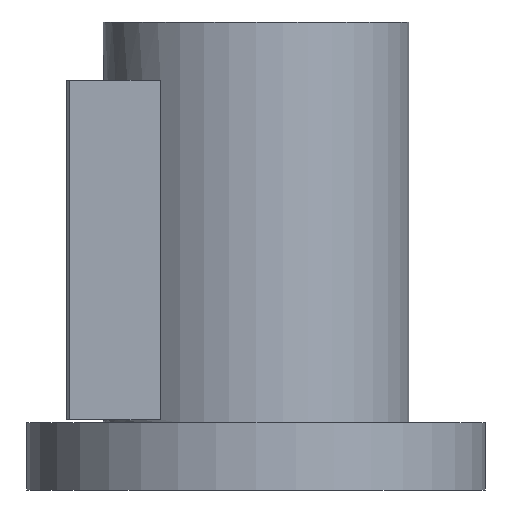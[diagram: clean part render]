
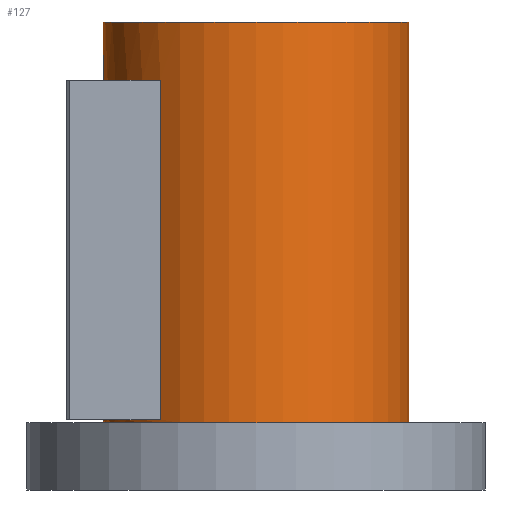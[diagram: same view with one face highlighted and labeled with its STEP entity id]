
A CAD part, front view. The second image highlights one B-rep face of the part: STEP entity #127.
In plain terms, the highlighted cylindrical face has radius 50 mm (diameter 100 mm), a full revolution.
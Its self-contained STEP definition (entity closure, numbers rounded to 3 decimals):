
#127=ADVANCED_FACE('',(#200,#201,#202),#155,.T.);
#155=CYLINDRICAL_SURFACE('',#508,50.);
#168=LINE('',#698,#184);
#169=LINE('',#702,#185);
#184=VECTOR('',#568,1.);
#185=VECTOR('',#571,1.);
#200=FACE_BOUND('',#245,.T.);
#201=FACE_BOUND('',#246,.T.);
#202=FACE_BOUND('',#247,.T.);
#245=EDGE_LOOP('',(#305));
#246=EDGE_LOOP('',(#306));
#247=EDGE_LOOP('',(#307,#308,#309,#310));
#305=ORIENTED_EDGE('',*,*,#431,.F.);
#306=ORIENTED_EDGE('',*,*,#432,.T.);
#307=ORIENTED_EDGE('',*,*,#433,.F.);
#308=ORIENTED_EDGE('',*,*,#434,.F.);
#309=ORIENTED_EDGE('',*,*,#435,.T.);
#310=ORIENTED_EDGE('',*,*,#436,.F.);
#393=VERTEX_POINT('',#692);
#394=VERTEX_POINT('',#694);
#395=VERTEX_POINT('',#696);
#396=VERTEX_POINT('',#697);
#397=VERTEX_POINT('',#699);
#398=VERTEX_POINT('',#701);
#431=EDGE_CURVE('',#393,#393,#475,.T.);
#432=EDGE_CURVE('',#394,#394,#476,.T.);
#433=EDGE_CURVE('',#395,#396,#477,.T.);
#434=EDGE_CURVE('',#397,#395,#168,.T.);
#435=EDGE_CURVE('',#397,#398,#478,.T.);
#436=EDGE_CURVE('',#396,#398,#169,.T.);
#475=CIRCLE('',#504,50.);
#476=CIRCLE('',#505,50.);
#477=CIRCLE('',#506,50.);
#478=CIRCLE('',#507,50.);
#504=AXIS2_PLACEMENT_3D('',#691,#562,#563);
#505=AXIS2_PLACEMENT_3D('',#693,#564,#565);
#506=AXIS2_PLACEMENT_3D('',#695,#566,#567);
#507=AXIS2_PLACEMENT_3D('',#700,#569,#570);
#508=AXIS2_PLACEMENT_3D('',#703,#572,#573);
#562=DIRECTION('',(0.,0.,1.));
#563=DIRECTION('',(1.,0.,0.));
#564=DIRECTION('',(0.,0.,1.));
#565=DIRECTION('',(1.,0.,0.));
#566=DIRECTION('',(0.,0.,-1.));
#567=DIRECTION('',(-1.,0.,0.));
#568=DIRECTION('',(0.,0.,1.));
#569=DIRECTION('',(0.,0.,-1.));
#570=DIRECTION('',(-1.,0.,0.));
#571=DIRECTION('',(0.,0.,-1.));
#572=DIRECTION('',(0.,0.,-1.));
#573=DIRECTION('',(-1.,0.,0.));
#691=CARTESIAN_POINT('',(0.,0.,153.));
#692=CARTESIAN_POINT('',(50.,0.,153.));
#693=CARTESIAN_POINT('',(0.,0.,22.));
#694=CARTESIAN_POINT('',(50.,0.,22.));
#695=CARTESIAN_POINT('',(0.,0.,134.));
#696=CARTESIAN_POINT('',(-31.289,-39.,134.));
#697=CARTESIAN_POINT('',(-31.289,39.,134.));
#698=CARTESIAN_POINT('',(-31.289,-39.,153.));
#699=CARTESIAN_POINT('',(-31.289,-39.,23.));
#700=CARTESIAN_POINT('',(0.,0.,23.));
#701=CARTESIAN_POINT('',(-31.289,39.,23.));
#702=CARTESIAN_POINT('',(-31.289,39.,153.));
#703=CARTESIAN_POINT('',(0.,0.,153.));
